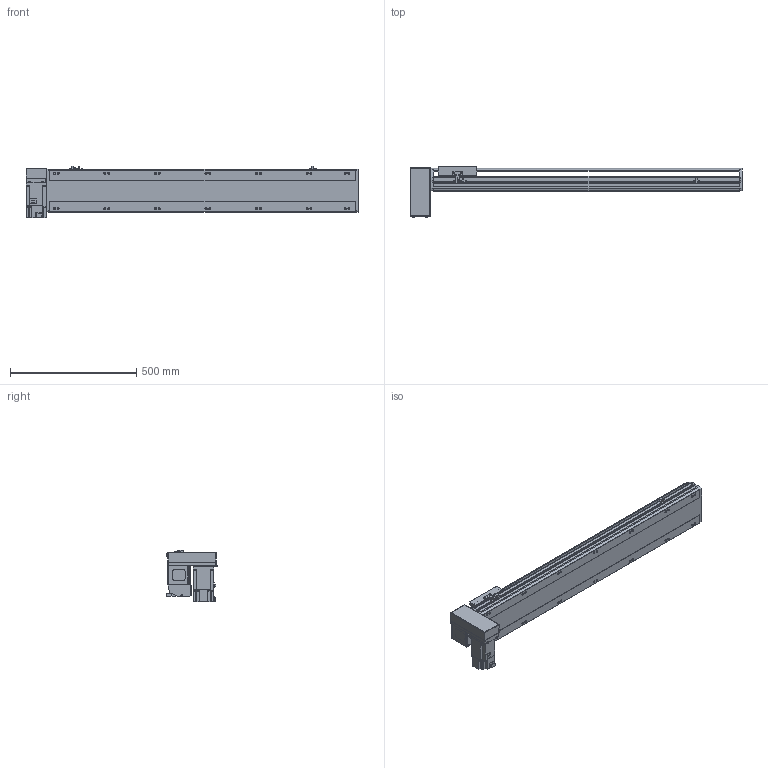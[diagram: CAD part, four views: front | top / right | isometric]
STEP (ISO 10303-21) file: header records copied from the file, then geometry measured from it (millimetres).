
FILE_DESCRIPTION(/* description */ ('STEP AP214'),/* implementation_level */ '2;1');
FILE_NAME(/* name */ 'PBS170-P40-S950-RD-T75-C1-N(0)',/* time_stamp */ '2022-06-08T07:35:08+02:00',/* author */ ('License CC BY-ND 4.0'),/* organization */ ('CADENAS'),/* preprocessor_version */ 'ST-DEVELOPER v18.102',/* originating_system */ 'PARTsolutions',/* authorisation */ ' ');
FILE_SCHEMA (('AUTOMOTIVE_DESIGN {1 0 10303 214 3 1 1}'));
Length unit declared in the file: millimetre
Products named in the file (7): PBS170-P40-S950-RD-T75-C1-N(0); PBS170_sensor; PBS170_plant; PBS170_sliser; T75-p1; PBS170T-RD_motors; PBS170-S950()_body
Assembly tree (8 placements, depth 2):
  PBS170-P40-S950-RD-T75-C1-N(0)
    PBS170_sensor  x3
    PBS170_plant
    PBS170_sliser
    T75-p1
    PBS170T-RD_motors
    PBS170-S950()_body
Bounding box: 1313 x 201 x 205.3 mm (x, y, z)
Volume: 10634739.1 mm3; surface area: 1396961.1 mm2
Topology: 8 solids, 8 shells, 1066 faces, 2835 edges, 1848 vertices
Faces by surface type: plane 681, cylinder 331, cone 44, sphere 8, torus 2
Full cylindrical faces by diameter (mm): 3.242 x4, 4 x2, 4.4 x4, 4.5 x6, 4.917 x4, 6 x9, 6.647 x22, 7 x2, 7.5 x4, 8 x8, 8.5 x14, 10 x4, 10.5 x14, 11 x2, 30 x2, 40 x1, 70 x1
Entity records: 30660 total; most frequent: CARTESIAN_POINT 5601, DIRECTION 5230, ORIENTED_EDGE 4968, EDGE_CURVE 2484, AXIS2_PLACEMENT_3D 1807, VERTEX_POINT 1706, LINE 1616, VECTOR 1616
